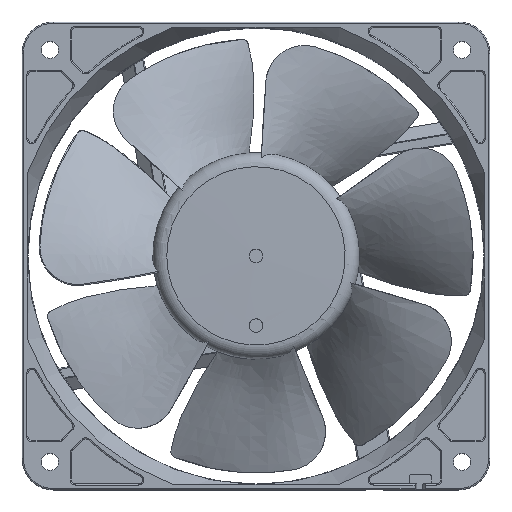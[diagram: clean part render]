
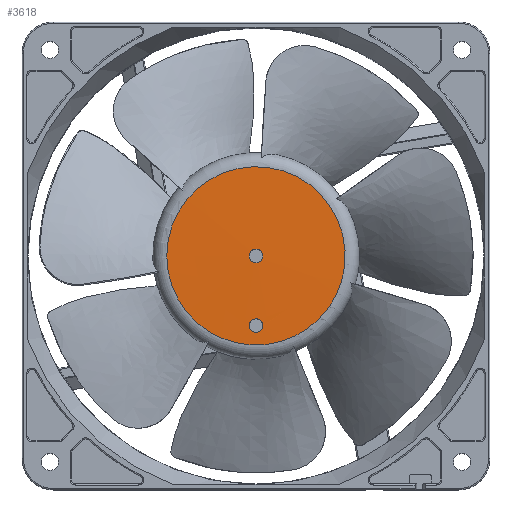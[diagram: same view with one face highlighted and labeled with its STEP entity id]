
A CAD part, top view. The second image highlights one B-rep face of the part: STEP entity #3618.
In plain terms, the highlighted conical face has half-angle 89.369 degrees and reference radius 22.9 mm.
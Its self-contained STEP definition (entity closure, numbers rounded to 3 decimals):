
#525=CONICAL_SURFACE('',#16230,22.9,89.369);
#3618=ADVANCED_FACE('',(#5167,#5168,#5169),#525,.T.);
#4828=B_SPLINE_CURVE_WITH_KNOTS('',3,(#27257,#27258,#27259,#27260,#27261,
#27262,#27263,#27264,#27265,#27266,#27267,#27268,#27269,#27270,#27271,#27272,
#27273,#27274,#27275,#27276,#27277,#27278,#27279,#27280,#27281,#27282,#27283,
#27284,#27285,#27286,#27287,#27288,#27289,#27290,#27291,#27292,#27293,#27294,
#27295,#27296,#27297,#27298,#27299,#27300,#27301,#27302,#27303,#27304,#27305,
#27306,#27307,#27308,#27309,#27310,#27311,#27312,#27313,#27314),
 .UNSPECIFIED.,.T.,.F.,(1,3,3,3,3,3,3,3,3,3,3,3,3,3,3,3,3,3,3,3,3,1),(-0.033,
0.,0.054,0.107,0.161,0.215,
0.269,0.322,0.376,0.43,
0.483,0.537,0.591,0.644,
0.698,0.752,0.806,0.859,
0.913,0.967,1.,1.054),.UNSPECIFIED.);
#5167=FACE_BOUND('',#5395,.T.);
#5168=FACE_BOUND('',#5396,.T.);
#5169=FACE_BOUND('',#5397,.T.);
#5395=EDGE_LOOP('',(#7013));
#5396=EDGE_LOOP('',(#7014));
#5397=EDGE_LOOP('',(#7015));
#7013=ORIENTED_EDGE('',*,*,#13029,.T.);
#7014=ORIENTED_EDGE('',*,*,#12619,.T.);
#7015=ORIENTED_EDGE('',*,*,#13028,.T.);
#11103=VERTEX_POINT('',#22314);
#11385=VERTEX_POINT('',#27315);
#11386=VERTEX_POINT('',#27318);
#12619=EDGE_CURVE('',#11103,#11103,#15035,.T.);
#13028=EDGE_CURVE('',#11385,#11385,#4828,.T.);
#13029=EDGE_CURVE('',#11386,#11386,#15130,.T.);
#15035=CIRCLE('',#15996,22.9);
#15130=CIRCLE('',#16228,1.741);
#15996=AXIS2_PLACEMENT_3D('',#22313,#17836,#17837);
#16228=AXIS2_PLACEMENT_3D('',#27317,#18314,#18315);
#16230=AXIS2_PLACEMENT_3D('',#27320,#18318,#18319);
#17836=DIRECTION('',(0.,0.,1.));
#17837=DIRECTION('',(-1.,0.,0.));
#18314=DIRECTION('',(0.,0.,-1.));
#18315=DIRECTION('',(-1.,0.,0.));
#18318=DIRECTION('',(0.,0.,-1.));
#18319=DIRECTION('',(1.,0.,0.));
#22313=CARTESIAN_POINT('',(0.,0.,
37.471));
#22314=CARTESIAN_POINT('',(-22.9,0.,37.471));
#27257=CARTESIAN_POINT('',(-1.232,-19.141,37.512));
#27258=CARTESIAN_POINT('',(-1.369,-19.003,37.513));
#27259=CARTESIAN_POINT('',(-1.485,-18.84,37.515));
#27260=CARTESIAN_POINT('',(-1.57,-18.664,37.517));
#27261=CARTESIAN_POINT('',(-1.654,-18.489,37.518));
#27262=CARTESIAN_POINT('',(-1.709,-18.296,37.52));
#27263=CARTESIAN_POINT('',(-1.731,-18.102,37.523));
#27264=CARTESIAN_POINT('',(-1.752,-17.908,37.525));
#27265=CARTESIAN_POINT('',(-1.74,-17.708,37.527));
#27266=CARTESIAN_POINT('',(-1.697,-17.518,37.529));
#27267=CARTESIAN_POINT('',(-1.653,-17.329,37.531));
#27268=CARTESIAN_POINT('',(-1.575,-17.144,37.533));
#27269=CARTESIAN_POINT('',(-1.471,-16.979,37.535));
#27270=CARTESIAN_POINT('',(-1.367,-16.814,37.537));
#27271=CARTESIAN_POINT('',(-1.233,-16.665,37.539));
#27272=CARTESIAN_POINT('',(-1.08,-16.544,37.54));
#27273=CARTESIAN_POINT('',(-0.927,-16.424,37.542));
#27274=CARTESIAN_POINT('',(-0.751,-16.327,37.543));
#27275=CARTESIAN_POINT('',(-0.567,-16.264,37.544));
#27276=CARTESIAN_POINT('',(-0.383,-16.201,37.544));
#27277=CARTESIAN_POINT('',(-0.185,-16.168,37.545));
#27278=CARTESIAN_POINT('',(0.01,-16.169,37.545));
#27279=CARTESIAN_POINT('',(0.205,-16.17,37.545));
#27280=CARTESIAN_POINT('',(0.402,-16.205,37.544));
#27281=CARTESIAN_POINT('',(0.586,-16.271,37.543));
#27282=CARTESIAN_POINT('',(0.769,-16.336,37.543));
#27283=CARTESIAN_POINT('',(0.944,-16.434,37.542));
#27284=CARTESIAN_POINT('',(1.096,-16.557,37.54));
#27285=CARTESIAN_POINT('',(1.247,-16.68,37.539));
#27286=CARTESIAN_POINT('',(1.379,-16.83,37.537));
#27287=CARTESIAN_POINT('',(1.482,-16.996,37.535));
#27288=CARTESIAN_POINT('',(1.584,-17.162,37.533));
#27289=CARTESIAN_POINT('',(1.659,-17.348,37.531));
#27290=CARTESIAN_POINT('',(1.701,-17.538,37.529));
#27291=CARTESIAN_POINT('',(1.743,-17.728,37.527));
#27292=CARTESIAN_POINT('',(1.752,-17.929,37.524));
#27293=CARTESIAN_POINT('',(1.728,-18.122,37.522));
#27294=CARTESIAN_POINT('',(1.705,-18.315,37.52));
#27295=CARTESIAN_POINT('',(1.647,-18.507,37.518));
#27296=CARTESIAN_POINT('',(1.561,-18.682,37.516));
#27297=CARTESIAN_POINT('',(1.475,-18.857,37.515));
#27298=CARTESIAN_POINT('',(1.357,-19.019,37.513));
#27299=CARTESIAN_POINT('',(1.217,-19.155,37.511));
#27300=CARTESIAN_POINT('',(1.078,-19.292,37.51));
#27301=CARTESIAN_POINT('',(0.913,-19.406,37.509));
#27302=CARTESIAN_POINT('',(0.737,-19.488,37.508));
#27303=CARTESIAN_POINT('',(0.56,-19.571,37.507));
#27304=CARTESIAN_POINT('',(0.367,-19.624,37.507));
#27305=CARTESIAN_POINT('',(0.173,-19.643,37.506));
#27306=CARTESIAN_POINT('',(-0.021,-19.662,37.506));
#27307=CARTESIAN_POINT('',(-0.221,-19.649,37.506));
#27308=CARTESIAN_POINT('',(-0.41,-19.603,37.507));
#27309=CARTESIAN_POINT('',(-0.6,-19.557,37.507));
#27310=CARTESIAN_POINT('',(-0.784,-19.478,37.508));
#27311=CARTESIAN_POINT('',(-0.947,-19.372,37.509));
#27312=CARTESIAN_POINT('',(-1.05,-19.305,37.51));
#27313=CARTESIAN_POINT('',(-1.145,-19.228,37.511));
#27314=CARTESIAN_POINT('',(-1.232,-19.141,37.512));
#27315=CARTESIAN_POINT('',(-1.232,-19.141,37.512));
#27317=CARTESIAN_POINT('',(0.,0.,
37.704));
#27318=CARTESIAN_POINT('',(-1.741,0.,37.704));
#27320=CARTESIAN_POINT('',(0.,0.,
37.471));
